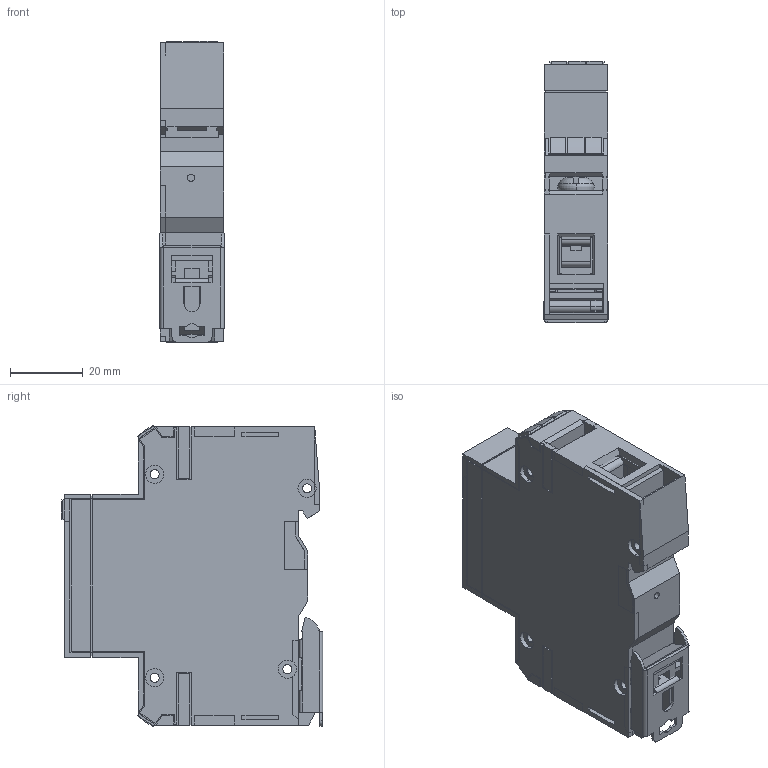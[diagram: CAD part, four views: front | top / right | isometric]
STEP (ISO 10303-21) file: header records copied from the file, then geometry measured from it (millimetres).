
FILE_DESCRIPTION (( 'STEP AP214' ), '1' );
FILE_NAME ('OptiIDn OMu 1 ïîëþñ.STEP', '2022-12-06T11:26:40', ( '' ), ( '' ), 'SwSTEP 2.0', 'SolidWorks 2018', '' );
FILE_SCHEMA (( 'AUTOMOTIVE_DESIGN' ));
Length unit declared in the file: millimetre
Products named in the file (12): Êîëîäêà 03-039 ïîä íîâûé ãàáàðèòû; 暑痫篑 镳噔 矬耱铋; Çàãëóøêà ìîäóëÿ Ë 50-084; Çàãëóøêà ìîäóëÿ Ï 50-083; ﾈ淸韭瑣ⅱ 01; Âûâîä 53-027 îáðåçàíûé äëÿ ñàéòà; 鎔艜 03-024; Êîðïóñ ëåâûé ïóñòîé; OptiIDn OMu 1 ïîëþñ; Ìåòêà 21-086; 恟u 瀀嚦鍣_1; Çàùåëêà 11-010
Assembly tree (16 placements, depth 3):
  OptiIDn OMu 1 ïîëþñ
    恟u 瀀嚦鍣_1
      Êîðïóñ ëåâûé ïóñòîé
      ﾈ淸韭瑣ⅱ 01
      暑痫篑 镳噔 矬耱铋
      Çàùåëêà 11-010
      Çàãëóøêà ìîäóëÿ Ë 50-084
      Çàãëóøêà ìîäóëÿ Ï 50-083
      Ìåòêà 21-086  x3
      Âûâîä 53-027 îáðåçàíûé äëÿ ñàéòà  x2
      鎔艜 03-024  x2
      Êîëîäêà 03-039 ïîä íîâûé ãàáàðèòû  x2
Bounding box: 17.6 x 71.88 x 82.87 mm (x, y, z)
Volume: 70764.4 mm3; surface area: 38620 mm2
Topology: 15 solids, 15 shells, 1327 faces, 3614 edges, 2337 vertices
Faces by surface type: plane 1037, cylinder 280, torus 8, cone 2
Entity records: 29644 total; most frequent: CARTESIAN_POINT 5180, ORIENTED_EDGE 5068, DIRECTION 4796, EDGE_CURVE 2534, LINE 2162, VECTOR 2162, VERTEX_POINT 1637, AXIS2_PLACEMENT_3D 1317
